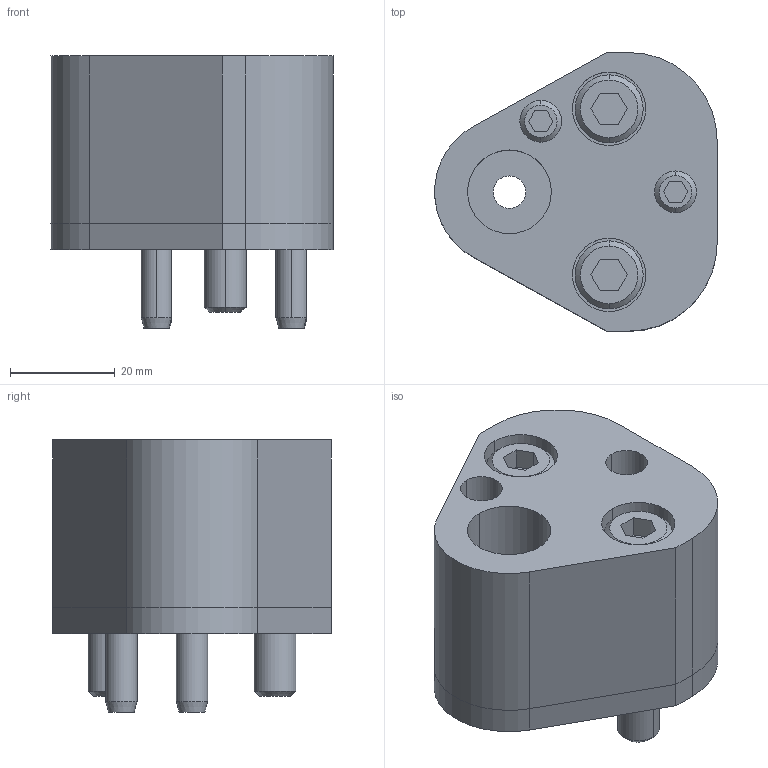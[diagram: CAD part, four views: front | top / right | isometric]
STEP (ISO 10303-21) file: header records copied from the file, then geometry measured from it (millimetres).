
FILE_DESCRIPTION(/* description */ (''),/* implementation_level */ '2;1');
FILE_NAME(/* name */ '3d_crn-ap16_03621_r00.stp',/* time_stamp */ '2011-01-10T14:16:24+09:00',/* author */ ('MISUMI'),/* organization */ (''),/* preprocessor_version */ 'ST-DEVELOPER v11',/* originating_system */ 'UGS - NX 5.0',/* authorisation */ '');
FILE_SCHEMA (('CONFIG_CONTROL_DESIGN'));
Length unit declared in the file: millimetre
Products named in the file (1): 3d_crn-ap16_03621_r00
Bounding box: 53.95 x 53.2 x 52 mm (x, y, z)
Volume: 70295.8 mm3; surface area: 24690.9 mm2
Topology: 8 solids, 8 shells, 155 faces, 348 edges, 224 vertices
Faces by surface type: plane 67, cylinder 62, cone 26
Entity records: 4494 total; most frequent: DIRECTION 804, CARTESIAN_POINT 782, ORIENTED_EDGE 696, EDGE_CURVE 348, AXIS2_PLACEMENT_3D 306, VERTEX_POINT 224, LINE 192, VECTOR 192
